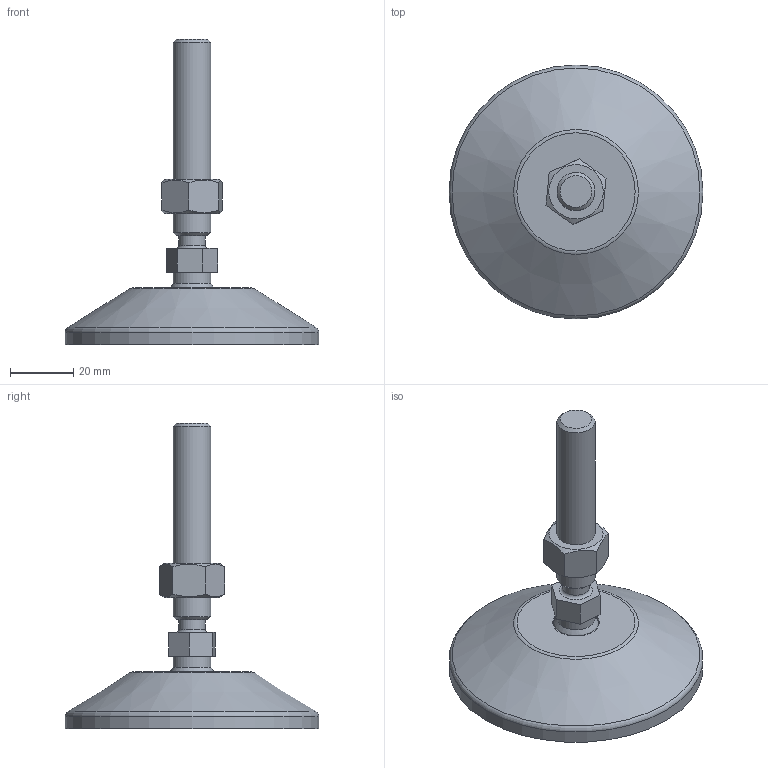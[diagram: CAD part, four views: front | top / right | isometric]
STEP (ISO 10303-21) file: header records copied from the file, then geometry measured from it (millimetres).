
FILE_DESCRIPTION(('STEP AP203'), '1');
FILE_NAME('栖闉罻', '', ('UNSPECIFIED'), ('UNSPECIFIED'), 'C3D Converter', 'C3D Toolkit', '');
FILE_SCHEMA(('CONFIG_CONTROL_DESIGN'));
Length unit declared in the file: millimetre
Products named in the file (4): A00020.112066; A00015.1080
Assembly tree (3 placements, depth 3):
  (unnamed)
    A00020.112066
      (unnamed)
    A00015.1080
Bounding box: 80 x 80 x 96.4 mm (x, y, z)
Volume: 48221.7 mm3; surface area: 21653.6 mm2
Topology: 3 solids, 3 shells, 179 faces, 452 edges, 301 vertices
Faces by surface type: plane 96, cylinder 58, torus 14, cone 9, sphere 2
Full cylindrical faces by diameter (mm): 4 x8, 8.3 x1, 10.647 x1, 12 x2, 14.3 x1, 15 x2, 15.5 x1, 69.3 x1, 80 x1
Entity records: 8737 total; most frequent: CARTESIAN_POINT 2847, DIRECTION 906, ORIENTED_EDGE 832, EDGE_CURVE 416, AXIS2_PLACEMENT_3D 353, VERTEX_POINT 300, EDGE_LOOP 238, LINE 200
